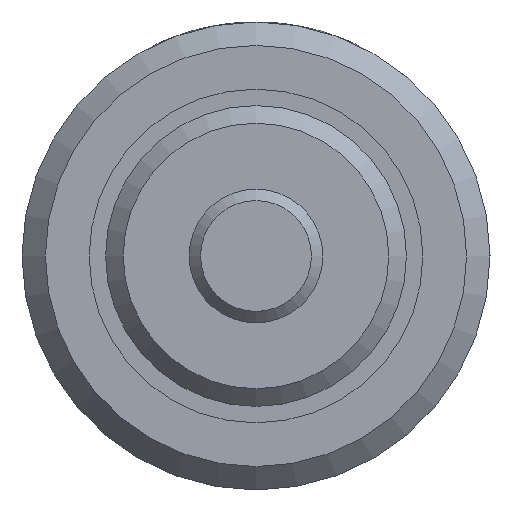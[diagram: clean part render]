
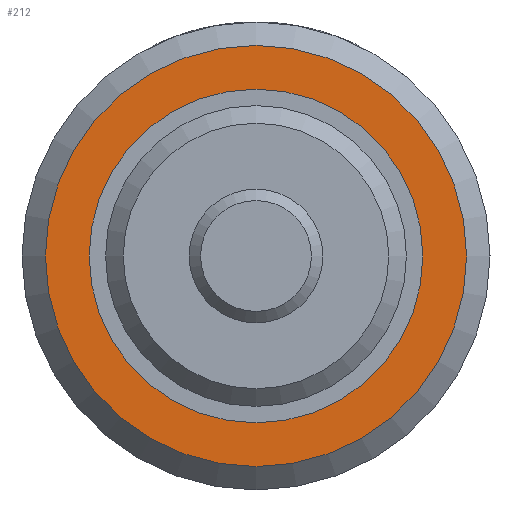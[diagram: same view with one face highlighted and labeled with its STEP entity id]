
A CAD part, left-side view. The second image highlights one B-rep face of the part: STEP entity #212.
In plain terms, the highlighted planar face has unit normal (-1, 0, 0).
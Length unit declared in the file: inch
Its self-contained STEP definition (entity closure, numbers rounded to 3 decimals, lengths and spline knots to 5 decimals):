
#212 = ADVANCED_FACE( '', ( #447, #448 ), #449, .F. );
#447 = FACE_OUTER_BOUND( '', #695, .T. );
#448 = FACE_BOUND( '', #696, .T. );
#449 = PLANE( '', #697 );
#695 = EDGE_LOOP( '', ( #1073 ) );
#696 = EDGE_LOOP( '', ( #1074 ) );
#697 = AXIS2_PLACEMENT_3D( '', #1075, #1076, #1077 );
#1073 = ORIENTED_EDGE( '', *, *, #1261, .F. );
#1074 = ORIENTED_EDGE( '', *, *, #1361, .T. );
#1075 = CARTESIAN_POINT( '', ( 0.5, 0.312, 0. ) );
#1076 = DIRECTION( '', ( 1., 0., 0. ) );
#1077 = DIRECTION( '', ( 0., 0., -1. ) );
#1261 = EDGE_CURVE( '', #1445, #1445, #1446, .T. );
#1361 = EDGE_CURVE( '', #1597, #1597, #1598, .T. );
#1445 = VERTEX_POINT( '', #1780 );
#1446 = CIRCLE( '', #1781, 0.39375 );
#1597 = VERTEX_POINT( '', #2059 );
#1598 = CIRCLE( '', #2060, 0.312 );
#1780 = CARTESIAN_POINT( '', ( 0.5, 0., -0.39375 ) );
#1781 = AXIS2_PLACEMENT_3D( '', #2199, #2200, #2201 );
#2059 = CARTESIAN_POINT( '', ( 0.5, 0., -0.312 ) );
#2060 = AXIS2_PLACEMENT_3D( '', #2333, #2334, #2335 );
#2199 = CARTESIAN_POINT( '', ( 0.5, 0., 0. ) );
#2200 = DIRECTION( '', ( 1., 0., 0. ) );
#2201 = DIRECTION( '', ( 0., 0., -1. ) );
#2333 = CARTESIAN_POINT( '', ( 0.5, 0., 0. ) );
#2334 = DIRECTION( '', ( 1., 0., 0. ) );
#2335 = DIRECTION( '', ( 0., 0., -1. ) );
